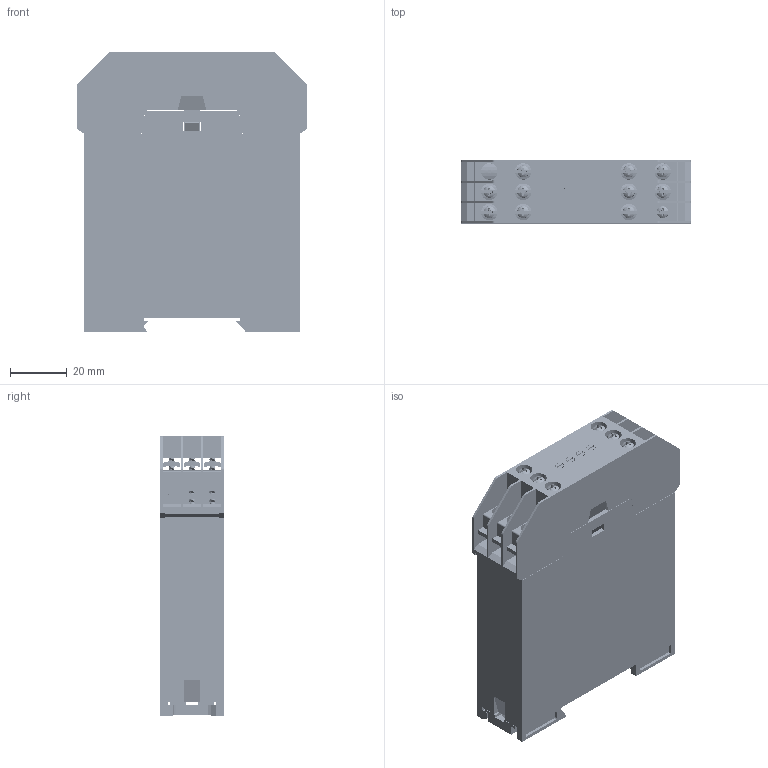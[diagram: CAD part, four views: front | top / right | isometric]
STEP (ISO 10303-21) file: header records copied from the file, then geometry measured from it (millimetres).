
FILE_DESCRIPTION(/* description */ (''),/* implementation_level */ '2;1');
FILE_NAME(/* name */ 'I:/Drawings/3DMODELS/DIN Rail Modules/ADM290-000/ADM290-000 v2.step',/* time_stamp */ '2022-04-28T09:58:24-04:00',/* author */ (''),/* organization */ (''),/* preprocessor_version */ 'ST-DEVELOPER v18.1',/* originating_system */ 'Autodesk Translation Framework v10.14.0.1471',/* authorisation */ '');
FILE_SCHEMA (('AUTOMOTIVE_DESIGN { 1 0 10303 214 3 1 1 }'));
Products named in the file (16): ADM290-000; 90604A306_Pan Head Combination Phillips Slotted Screws; 90604A306_Pan Head Combination Phillips Slotted Screws (1); 90604A306_Pan Head Combination Phillips Slotted Screws (1) (1); 90604A306_Pan Head Combination Phillips Slotted Screws (2); 90604A306_Pan Head Combination Phillips Slotted Screws (1) (2); 90604A306_Pan Head Combination Phillips Slotted Screws (1) (1) (1); 90604A306_Pan Head Combination Phillips Slotted Screws (1) (1) (1) (1
) (1); 90604A306_Pan Head Combination Phillips Slotted Screws (1) (1) (1) (1
) (1) (1); 90604A306_Pan Head Combination Phillips Slotted Screws (1) (1) (1) (1
) (1) (2); 90604A306_Pan Head Combination Phillips Slotted Screws (1) (1) (1) (1
) (1) (1) (1); 90604A306_Pan Head Combination Phillips Slotted Screws (1) (1) (1) (1
) (1) (2) (1); 91781A055_18-8 Stainless Steel Slotted Flat Head Screw; 91781A055_18-8 Stainless Steel Slotted Flat Head Screw (1); 91781A055_18-8 Stainless Steel Slotted Flat Head Screw (1) (1); 91781A055_18-8 Stainless Steel Slotted Flat Head Screw (1) (1) (1)
Assembly tree (15 placements, depth 2):
  ADM290-000
    90604A306_Pan Head Combination Phillips Slotted Screws
    90604A306_Pan Head Combination Phillips Slotted Screws (1)
    90604A306_Pan Head Combination Phillips Slotted Screws (1) (1)
    90604A306_Pan Head Combination Phillips Slotted Screws (2)
    90604A306_Pan Head Combination Phillips Slotted Screws (1) (2)
    90604A306_Pan Head Combination Phillips Slotted Screws (1) (1) (1)
    90604A306_Pan Head Combination Phillips Slotted Screws (1) (1) (1) (1
) (1)
    90604A306_Pan Head Combination Phillips Slotted Screws (1) (1) (1) (1
) (1) (1)
    90604A306_Pan Head Combination Phillips Slotted Screws (1) (1) (1) (1
) (1) (2)
    90604A306_Pan Head Combination Phillips Slotted Screws (1) (1) (1) (1
) (1) (1) (1)
    90604A306_Pan Head Combination Phillips Slotted Screws (1) (1) (1) (1
) (1) (2) (1)
    91781A055_18-8 Stainless Steel Slotted Flat Head Screw
    91781A055_18-8 Stainless Steel Slotted Flat Head Screw (1)
    91781A055_18-8 Stainless Steel Slotted Flat Head Screw (1) (1)
    91781A055_18-8 Stainless Steel Slotted Flat Head Screw (1) (1) (1)
Bounding box: 81.28 x 22.35 x 98.96 mm (x, y, z)
Volume: 135240.9 mm3; surface area: 42677.3 mm2
Topology: 30 solids, 30 shells, 1754 faces, 5043 edges, 3352 vertices
Faces by surface type: cylinder 957, plane 643, cone 65, torus 37, bspline 30, sphere 22
Full cylindrical faces by diameter (mm): 1.112 x68, 1.27 x11, 1.524 x64, 1.595 x308, 2.184 x286, 3.302 x4, 4.242 x11, 4.318 x2, 5.842 x12
Entity records: 109827 total; most frequent: CARTESIAN_POINT 66867, ORIENTED_EDGE 10082, DIRECTION 7590, EDGE_CURVE 5041, VERTEX_POINT 3352, AXIS2_PLACEMENT_3D 2574, LINE 2442, VECTOR 2442
